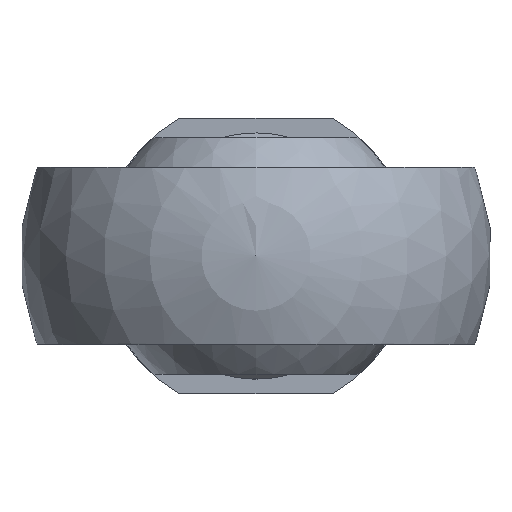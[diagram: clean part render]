
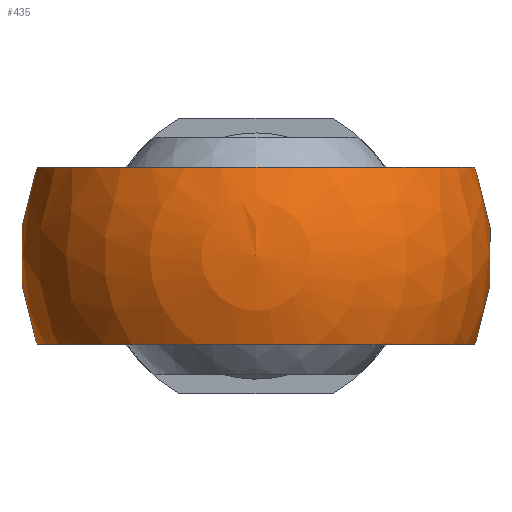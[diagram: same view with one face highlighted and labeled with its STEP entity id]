
A CAD part, left-side view. The second image highlights one B-rep face of the part: STEP entity #435.
In plain terms, the highlighted spherical face has radius 12 mm.
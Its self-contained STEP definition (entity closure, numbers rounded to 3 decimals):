
#19=SPHERICAL_SURFACE('',#483,12.);
#92=FACE_OUTER_BOUND('',#127,.T.);
#127=EDGE_LOOP('',(#315,#316,#317,#318));
#170=CIRCLE('',#468,11.124);
#172=CIRCLE('',#471,11.124);
#177=CIRCLE('',#480,10.327);
#178=CIRCLE('',#482,10.327);
#204=VERTEX_POINT('',#678);
#206=VERTEX_POINT('',#683);
#209=VERTEX_POINT('',#693);
#212=VERTEX_POINT('',#700);
#243=EDGE_CURVE('',#206,#204,#170,.T.);
#250=EDGE_CURVE('',#212,#209,#172,.T.);
#257=EDGE_CURVE('',#204,#209,#177,.T.);
#258=EDGE_CURVE('',#212,#206,#178,.T.);
#315=ORIENTED_EDGE('',*,*,#257,.T.);
#316=ORIENTED_EDGE('',*,*,#250,.F.);
#317=ORIENTED_EDGE('',*,*,#258,.T.);
#318=ORIENTED_EDGE('',*,*,#243,.T.);
#435=ADVANCED_FACE('',(#92),#19,.T.);
#468=AXIS2_PLACEMENT_3D('',#684,#542,#543);
#471=AXIS2_PLACEMENT_3D('',#704,#550,#551);
#480=AXIS2_PLACEMENT_3D('',#715,#568,#569);
#482=AXIS2_PLACEMENT_3D('',#717,#572,#573);
#483=AXIS2_PLACEMENT_3D('',#718,#574,#575);
#542=DIRECTION('center_axis',(0.,0.,1.));
#543=DIRECTION('ref_axis',(1.,0.,0.));
#550=DIRECTION('center_axis',(0.,0.,1.));
#551=DIRECTION('ref_axis',(1.,0.,0.));
#568=DIRECTION('center_axis',(-1.,0.,0.));
#569=DIRECTION('ref_axis',(0.,0.,1.));
#572=DIRECTION('center_axis',(-1.,0.,0.));
#573=DIRECTION('ref_axis',(0.,0.,1.));
#574=DIRECTION('center_axis',(-1.,0.,0.));
#575=DIRECTION('ref_axis',(0.,0.,1.));
#678=CARTESIAN_POINT('',(6.112,-9.295,-4.5));
#683=CARTESIAN_POINT('',(6.112,9.295,-4.5));
#684=CARTESIAN_POINT('Origin',(0.,0.,-4.5));
#693=CARTESIAN_POINT('',(6.112,-9.295,4.5));
#700=CARTESIAN_POINT('',(6.112,9.295,4.5));
#704=CARTESIAN_POINT('Origin',(0.,0.,4.5));
#715=CARTESIAN_POINT('Origin',(6.112,0.,0.));
#717=CARTESIAN_POINT('Origin',(6.112,0.,0.));
#718=CARTESIAN_POINT('Origin',(0.,0.,0.));
